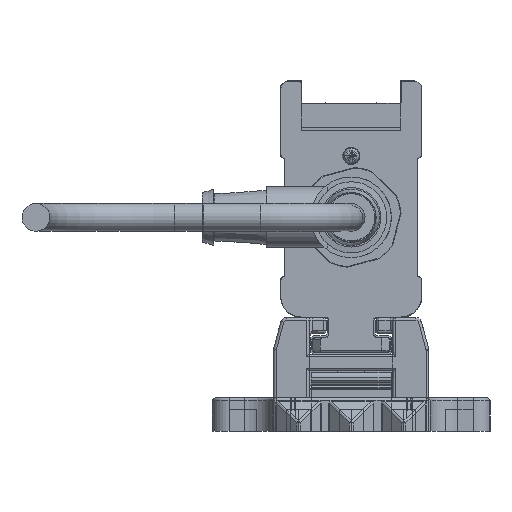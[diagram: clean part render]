
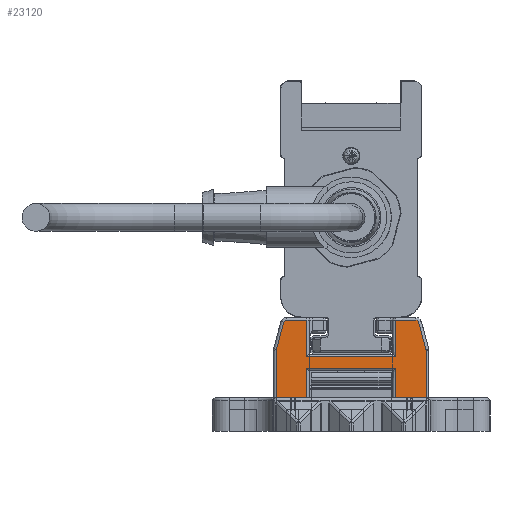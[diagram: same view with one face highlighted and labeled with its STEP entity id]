
A CAD part, left-side view. The second image highlights one B-rep face of the part: STEP entity #23120.
In plain terms, the highlighted planar face has unit normal (-1, 0, 0).
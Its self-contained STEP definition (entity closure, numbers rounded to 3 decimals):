
#23120=ADVANCED_FACE('', (#23130), #23140, .T.);
#117610=AXIS2_PLACEMENT_3D('Ax2Pl3d', #117620, #117630, #117640);
#117850=AXIS2_PLACEMENT_3D('Ax2Pl3d', #117860, #117870, #117880);
#122730=AXIS2_PLACEMENT_3D('Ax2Pl3d', #122740, #122750, #122760);
#127810=AXIS2_PLACEMENT_3D('Ax2Pl3d', #127820, #127830, #127840);
#137490=AXIS2_PLACEMENT_3D('Ax2Pl3d', #137500, #137510, #137520);
#453240=CARTESIAN_POINT('', (-747.669,-2006.345,
331.37));
#117620=CARTESIAN_POINT('HicPkt', (-747.669,-2005.379,
331.111));
#453250=CARTESIAN_POINT('', (-747.669,-2006.379,
331.111));
#453260=CARTESIAN_POINT('', (-747.669,-2005.037,
336.255));
#453280=CARTESIAN_POINT('', (-747.669,-2005.037,
336.255));
#453310=CARTESIAN_POINT('', (-747.669,-2004.554,
336.625));
#117860=CARTESIAN_POINT('HicPkt', (-747.669,-2004.554,
336.125));
#453530=CARTESIAN_POINT('', (-747.669,-2006.379,
322.625));
#453540=CARTESIAN_POINT('', (-747.669,-2000.881,
322.625));
#453550=CARTESIAN_POINT('', (-747.669,-2000.881,
322.625));
#453630=CARTESIAN_POINT('', (-747.669,-1984.881,
322.625));
#453640=CARTESIAN_POINT('', (-747.669,-1979.383,
322.625));
#453650=CARTESIAN_POINT('', (-747.669,-1979.383,
322.625));
#122740=CARTESIAN_POINT('HicPkt', (-747.669,-1981.209,
336.125));
#456120=CARTESIAN_POINT('', (-747.669,-1980.726,
336.255));
#456130=CARTESIAN_POINT('', (-747.669,-1981.209,
336.625));
#456140=CARTESIAN_POINT('', (-747.669,-2000.881,
330.025));
#456150=CARTESIAN_POINT('', (-747.669,-1984.881,
330.025));
#456160=CARTESIAN_POINT('', (-747.669,-2000.881,
330.025));
#456320=CARTESIAN_POINT('', (-747.669,-2000.881,
328.005));
#456330=CARTESIAN_POINT('', (-747.669,-1984.881,
328.005));
#456340=CARTESIAN_POINT('', (-747.669,-1984.881,
328.005));
#456350=CARTESIAN_POINT('', (-747.669,-2000.881,
328.005));
#456370=CARTESIAN_POINT('', (-747.669,-1984.881,
322.625));
#456380=CARTESIAN_POINT('', (-747.669,-1984.881,
330.025));
#456390=CARTESIAN_POINT('', (-747.669,-1984.881,
336.625));
#457240=CARTESIAN_POINT('', (-747.669,-1984.881,
336.625));
#457250=CARTESIAN_POINT('', (-747.669,-1980.726,
336.255));
#457260=CARTESIAN_POINT('', (-747.669,-1979.417,
331.37));
#457450=CARTESIAN_POINT('', (-747.669,-1979.383,
331.111));
#457460=CARTESIAN_POINT('', (-747.669,-1979.383,
331.111));
#127820=CARTESIAN_POINT('HicPkt', (-747.669,-1980.383,
331.111));
#458270=CARTESIAN_POINT('', (-747.669,-2006.379,
331.111));
#137500=CARTESIAN_POINT('HicPkt', (-747.669,-2004.554,
336.625));
#460070=CARTESIAN_POINT('', (-747.669,-2000.881,
336.625));
#460080=CARTESIAN_POINT('', (-747.669,-2000.881,
336.625));
#460090=CARTESIAN_POINT('', (-747.669,-2000.881,
336.625));
#522140=CIRCLE('Circle', #117610, 1.);
#522180=CIRCLE('Circle', #117850, 0.5);
#522760=CIRCLE('Circle', #122730, 0.5);
#523290=CIRCLE('Circle', #127810, 1.);
#117630=DIRECTION('Axis', (-1.,0.,
0.));
#117640=DIRECTION('RefDirection', (0.,
0.,-1.));
#730180=DIRECTION('', (0.,0.259,
0.966));
#117870=DIRECTION('Axis', (-1.,0.,
0.));
#117880=DIRECTION('RefDirection', (0.,
0.,-1.));
#730290=DIRECTION('', (0.,1.,0.));
#730330=DIRECTION('', (0.,1.,0.));
#122750=DIRECTION('Axis', (1.,0.,
0.));
#122760=DIRECTION('RefDirection', (0.,
0.,-1.));
#731520=DIRECTION('', (0.,-1.,0.));
#731620=DIRECTION('', (0.,1.,0.));
#731630=DIRECTION('', (0.,0.,1.));
#731650=DIRECTION('', (0.,0.,-1.));
#731660=DIRECTION('', (0.,0.,-1.));
#732090=DIRECTION('', (0.,-1.,0.));
#732100=DIRECTION('', (0.,-0.259,0.966));
#732190=DIRECTION('', (0.,0.,1.));
#127830=DIRECTION('Axis', (1.,0.,
0.));
#127840=DIRECTION('RefDirection', (0.,
0.,-1.));
#732560=DIRECTION('', (0.,0.,1.));
#137510=DIRECTION('Axis', (-1.,0.,
0.));
#137520=DIRECTION('RefDirection', (0.,
0.,-1.));
#733400=DIRECTION('', (0.,1.,0.));
#733410=DIRECTION('', (0.,0.,1.));
#785930=EDGE_CURVE('', #785940, #785920, #522140, .T.);
#785990=EDGE_CURVE('', #785920, #785970, #786000, .T.);
#786060=EDGE_CURVE('', #785970, #786050, #522180, .T.);
#786510=EDGE_CURVE('', #786500, #786520, #786530, .T.);
#786670=EDGE_CURVE('', #786660, #786680, #786690, .T.);
#791030=EDGE_CURVE('', #791040, #791050, #522760, .T.);
#791080=EDGE_CURVE('', #791090, #791100, #791110, .T.);
#791450=EDGE_CURVE('', #791430, #791460, #791470, .T.);
#791500=EDGE_CURVE('', #786520, #791430, #791510, .T.);
#791540=EDGE_CURVE('', #791460, #786660, #791550, .T.);
#791560=EDGE_CURVE('', #791570, #791090, #791580, .T.);
#793400=EDGE_CURVE('', #791050, #791570, #793410, .T.);
#793470=EDGE_CURVE('', #793480, #791040, #793490, .T.);
#793910=EDGE_CURVE('', #786680, #793920, #793930, .T.);
#793950=EDGE_CURVE('', #793920, #793480, #523290, .T.);
#795660=EDGE_CURVE('', #786500, #785940, #795670, .T.);
#799470=EDGE_CURVE('', #786050, #799480, #799490, .T.);
#799500=EDGE_CURVE('', #791100, #799480, #799510, .T.);
#950330=EDGE_LOOP('Edge_loop', (#950340,#950350,#950360,#950370,#950380,
#950390,#950400,#950410,#950420,#950430,#950440,#950450,#950460,#950470,
#950480,#950490,#950500,#950510));
#23130=FACE_OUTER_BOUND('Face_outer_bound', #950330, .T.);
#786000=LINE('Line', #453280, #1078570);
#786530=LINE('Line', #453540, #1078680);
#786690=LINE('Line', #453640, #1078720);
#791110=LINE('Line', #456140, #1079910);
#791470=LINE('Line', #456330, #1080010);
#791510=LINE('Line', #456350, #1080020);
#791550=LINE('Line', #456370, #1080040);
#791580=LINE('Line', #456380, #1080050);
#793410=LINE('Line', #457240, #1080480);
#793490=LINE('Line', #457250, #1080490);
#793930=LINE('Line', #457450, #1080580);
#795670=LINE('Line', #458270, #1080950);
#799490=LINE('Line', #460070, #1081790);
#799510=LINE('Line', #460090, #1081800);
#950340=ORIENTED_EDGE('', *, *, #799470, .T.);
#950350=ORIENTED_EDGE('', *, *, #799500, .F.);
#950360=ORIENTED_EDGE('', *, *, #791080, .F.);
#950370=ORIENTED_EDGE('', *, *, #791560, .F.);
#950380=ORIENTED_EDGE('', *, *, #793400, .F.);
#950390=ORIENTED_EDGE('', *, *, #791030, .F.);
#950400=ORIENTED_EDGE('', *, *, #793470, .F.);
#950410=ORIENTED_EDGE('', *, *, #793950, .F.);
#950420=ORIENTED_EDGE('', *, *, #793910, .F.);
#950430=ORIENTED_EDGE('', *, *, #786670, .F.);
#950440=ORIENTED_EDGE('', *, *, #791540, .F.);
#950450=ORIENTED_EDGE('', *, *, #791450, .F.);
#950460=ORIENTED_EDGE('', *, *, #791500, .F.);
#950470=ORIENTED_EDGE('', *, *, #786510, .F.);
#950480=ORIENTED_EDGE('', *, *, #795660, .T.);
#950490=ORIENTED_EDGE('', *, *, #785930, .T.);
#950500=ORIENTED_EDGE('', *, *, #785990, .T.);
#950510=ORIENTED_EDGE('', *, *, #786060, .T.);
#23140=PLANE('Plane', #137490);
#1078570=VECTOR('', #730180, 5.057);
#1078680=VECTOR('', #730290, 5.498);
#1078720=VECTOR('', #730330, 5.498);
#1079910=VECTOR('', #731520, 16.);
#1080010=VECTOR('', #731620, 16.);
#1080020=VECTOR('', #731630, 5.38);
#1080040=VECTOR('', #731650, 5.38);
#1080050=VECTOR('', #731660, 6.6);
#1080480=VECTOR('', #732090, 3.672);
#1080490=VECTOR('', #732100, 5.057);
#1080580=VECTOR('', #732190, 8.486);
#1080950=VECTOR('', #732560, 8.486);
#1081790=VECTOR('', #733400, 3.672);
#1081800=VECTOR('', #733410, 6.6);
#785920=VERTEX_POINT('', #453240);
#785940=VERTEX_POINT('', #453250);
#785970=VERTEX_POINT('', #453260);
#786050=VERTEX_POINT('', #453310);
#786500=VERTEX_POINT('', #453530);
#786520=VERTEX_POINT('', #453550);
#786660=VERTEX_POINT('', #453630);
#786680=VERTEX_POINT('', #453650);
#791040=VERTEX_POINT('', #456120);
#791050=VERTEX_POINT('', #456130);
#791090=VERTEX_POINT('', #456150);
#791100=VERTEX_POINT('', #456160);
#791430=VERTEX_POINT('', #456320);
#791460=VERTEX_POINT('', #456340);
#791570=VERTEX_POINT('', #456390);
#793480=VERTEX_POINT('', #457260);
#793920=VERTEX_POINT('', #457460);
#799480=VERTEX_POINT('', #460080);
